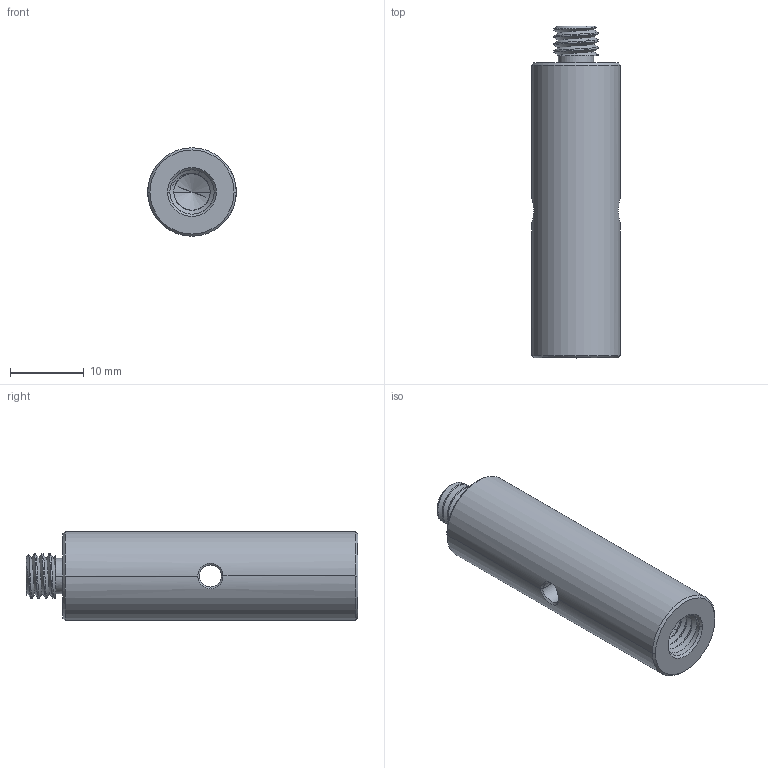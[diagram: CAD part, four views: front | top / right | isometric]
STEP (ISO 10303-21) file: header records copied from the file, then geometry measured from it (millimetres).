
FILE_DESCRIPTION((''),'2;1');
FILE_NAME('PCA4-A','2021-01-06T',('Administrator'),(''),'CREO PARAMETRIC BY PTC INC, 2015290','CREO PARAMETRIC BY PTC INC, 2015290','');
FILE_SCHEMA(('CONFIG_CONTROL_DESIGN'));
Length unit declared in the file: millimetre
Products named in the file (1): PCA4-A
Bounding box: 12 x 45 x 12 mm (x, y, z)
Volume: 4247.7 mm3; surface area: 2247.8 mm2
Topology: 1 solids, 1 shells, 69 faces, 179 edges, 110 vertices
Faces by surface type: cylinder 35, bspline 18, cone 9, plane 7
Entity records: 5026 total; most frequent: CARTESIAN_POINT 3527, ORIENTED_EDGE 354, DIRECTION 214, EDGE_CURVE 177, VERTEX_POINT 110, B_SPLINE_CURVE_WITH_KNOTS 87, AXIS2_PLACEMENT_3D 73, EDGE_LOOP 71
